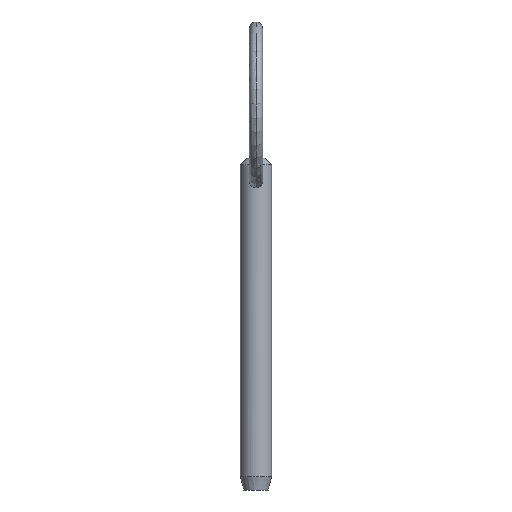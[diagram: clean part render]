
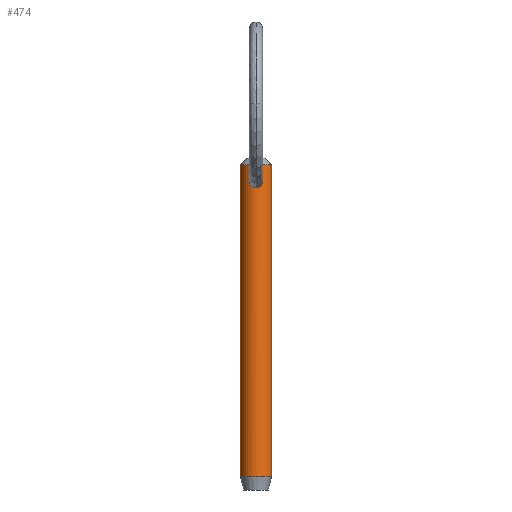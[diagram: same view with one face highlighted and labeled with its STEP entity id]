
A CAD part, front view. The second image highlights one B-rep face of the part: STEP entity #474.
In plain terms, the highlighted cylindrical face has radius 2.38 mm (diameter 4.76 mm), a partial arc.
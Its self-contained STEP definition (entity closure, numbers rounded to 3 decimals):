
#3 = CIRCLE ( 'NONE', #135, 2.38 ) ;
#4 = CARTESIAN_POINT ( 'NONE',  ( -0.133, -2.38, 40.825 ) ) ;
#6 = CARTESIAN_POINT ( 'NONE',  ( -0.991, -2.164, 42.101 ) ) ;
#8 = CARTESIAN_POINT ( 'NONE',  ( -0.88, -2.219, 42.36 ) ) ;
#15 = DIRECTION ( 'NONE',  ( 0., 0., -1. ) ) ;
#16 = CARTESIAN_POINT ( 'NONE',  ( 0.981, -2.169, 41.564 ) ) ;
#20 = CARTESIAN_POINT ( 'NONE',  ( 0.811, -2.24, 41.206 ) ) ;
#24 = EDGE_LOOP ( 'NONE', ( #50, #169 ) ) ;
#37 = CARTESIAN_POINT ( 'NONE',  ( -0.613, -2.302, 42.646 ) ) ;
#41 = AXIS2_PLACEMENT_3D ( 'NONE', #295, #375, #144 ) ;
#50 = ORIENTED_EDGE ( 'NONE', *, *, #307, .T. ) ;
#56 = CARTESIAN_POINT ( 'NONE',  ( 0.625, -2.299, 41.021 ) ) ;
#75 = CARTESIAN_POINT ( 'NONE',  ( -0.505, -2.329, 42.726 ) ) ;
#77 = ORIENTED_EDGE ( 'NONE', *, *, #366, .F. ) ;
#82 = CARTESIAN_POINT ( 'NONE',  ( -2.38, 0., 44.34 ) ) ;
#88 = ORIENTED_EDGE ( 'NONE', *, *, #440, .T. ) ;
#90 = CARTESIAN_POINT ( 'NONE',  ( 0.996, -2.162, 41.964 ) ) ;
#93 = CARTESIAN_POINT ( 'NONE',  ( 0.268, -2.368, 42.837 ) ) ;
#96 = VECTOR ( 'NONE', #123, 1000. ) ;
#99 = CARTESIAN_POINT ( 'NONE',  ( 0.885, -2.21, 41.317 ) ) ;
#103 = VECTOR ( 'NONE', #121, 1000. ) ;
#107 = CARTESIAN_POINT ( 'NONE',  ( 2.38, 0., 44.34 ) ) ;
#114 = EDGE_CURVE ( 'NONE', #473, #439, #430, .T. ) ;
#121 = DIRECTION ( 'NONE',  ( 0., 0., -1. ) ) ;
#123 = DIRECTION ( 'NONE',  ( 0., 0., -1. ) ) ;
#126 = CARTESIAN_POINT ( 'NONE',  ( 1.003, -2.158, 41.699 ) ) ;
#134 = VERTEX_POINT ( 'NONE', #107 ) ;
#135 = AXIS2_PLACEMENT_3D ( 'NONE', #402, #178, #290 ) ;
#137 = VERTEX_POINT ( 'NONE', #369 ) ;
#141 = CARTESIAN_POINT ( 'NONE',  ( -0.811, -2.24, 41.206 ) ) ;
#144 = DIRECTION ( 'NONE',  ( -1., 0., 0. ) ) ;
#145 = CARTESIAN_POINT ( 'NONE',  ( 0., -2.38, 40.825 ) ) ;
#147 = CARTESIAN_POINT ( 'NONE',  ( -1.004, -2.158, 41.699 ) ) ;
#156 = CARTESIAN_POINT ( 'NONE',  ( 0., 0., 44.34 ) ) ;
#163 = B_SPLINE_CURVE_WITH_KNOTS ( 'NONE', 3,
 ( #431, #203, #93, #347, #349, #351, #237, #470, #90, #126, #16, #99, #20, #56, #353, #199, #355, #435 ),
 .UNSPECIFIED., .F., .F.,
 ( 4, 2, 2, 2, 2, 2, 2, 2, 4 ),
 ( 0.003, 0.003, 0.003, 0.004, 0.004, 0.005, 0.005, 0.005, 0.006 ),
 .UNSPECIFIED. ) ;
#169 = ORIENTED_EDGE ( 'NONE', *, *, #114, .T. ) ;
#178 = DIRECTION ( 'NONE',  ( 0., 0., 1. ) ) ;
#182 = CARTESIAN_POINT ( 'NONE',  ( -0.268, -2.368, 40.851 ) ) ;
#187 = VERTEX_POINT ( 'NONE', #188 ) ;
#188 = CARTESIAN_POINT ( 'NONE',  ( -2.38, 0., -3.08 ) ) ;
#199 = CARTESIAN_POINT ( 'NONE',  ( 0.268, -2.368, 40.851 ) ) ;
#203 = CARTESIAN_POINT ( 'NONE',  ( 0.134, -2.38, 42.868 ) ) ;
#207 = VERTEX_POINT ( 'NONE', #82 ) ;
#214 = EDGE_CURVE ( 'NONE', #134, #207, #305, .T. ) ;
#218 = CARTESIAN_POINT ( 'NONE',  ( 0., -2.38, 40.825 ) ) ;
#219 = CARTESIAN_POINT ( 'NONE',  ( -0.626, -2.298, 41.022 ) ) ;
#233 = EDGE_LOOP ( 'NONE', ( #77, #437, #265, #88 ) ) ;
#237 = CARTESIAN_POINT ( 'NONE',  ( 0.865, -2.218, 42.34 ) ) ;
#244 = CARTESIAN_POINT ( 'NONE',  ( 0., -2.38, 42.868 ) ) ;
#245 = FACE_BOUND ( 'NONE', #24, .T. ) ;
#251 = CARTESIAN_POINT ( 'NONE',  ( -0.514, -2.327, 40.949 ) ) ;
#265 = ORIENTED_EDGE ( 'NONE', *, *, #339, .T. ) ;
#278 = CARTESIAN_POINT ( 'NONE',  ( -2.38, 0., 40.6 ) ) ;
#290 = DIRECTION ( 'NONE',  ( -1., 0., 0. ) ) ;
#294 = AXIS2_PLACEMENT_3D ( 'NONE', #156, #15, #418 ) ;
#295 = CARTESIAN_POINT ( 'NONE',  ( 0., 0., 40.6 ) ) ;
#305 = CIRCLE ( 'NONE', #294, 2.38 ) ;
#307 = EDGE_CURVE ( 'NONE', #439, #473, #163, .T. ) ;
#312 = CARTESIAN_POINT ( 'NONE',  ( 2.38, 0., 40.6 ) ) ;
#327 = CARTESIAN_POINT ( 'NONE',  ( 0., -2.38, 42.868 ) ) ;
#332 = CARTESIAN_POINT ( 'NONE',  ( -0.267, -2.368, 42.837 ) ) ;
#339 = EDGE_CURVE ( 'NONE', #207, #187, #421, .T. ) ;
#347 = CARTESIAN_POINT ( 'NONE',  ( 0.508, -2.328, 42.724 ) ) ;
#349 = CARTESIAN_POINT ( 'NONE',  ( 0.615, -2.301, 42.644 ) ) ;
#351 = CARTESIAN_POINT ( 'NONE',  ( 0.793, -2.246, 42.452 ) ) ;
#353 = CARTESIAN_POINT ( 'NONE',  ( 0.513, -2.327, 40.948 ) ) ;
#355 = CARTESIAN_POINT ( 'NONE',  ( 0.133, -2.38, 40.825 ) ) ;
#366 = EDGE_CURVE ( 'NONE', #134, #137, #457, .T. ) ;
#369 = CARTESIAN_POINT ( 'NONE',  ( 2.38, 0., -3.08 ) ) ;
#375 = DIRECTION ( 'NONE',  ( 0., 0., -1. ) ) ;
#377 = CARTESIAN_POINT ( 'NONE',  ( -0.134, -2.38, 42.868 ) ) ;
#402 = CARTESIAN_POINT ( 'NONE',  ( 0., 0., -3.08 ) ) ;
#403 = CYLINDRICAL_SURFACE ( 'NONE', #41, 2.38 ) ;
#414 = CARTESIAN_POINT ( 'NONE',  ( -0.885, -2.21, 41.317 ) ) ;
#418 = DIRECTION ( 'NONE',  ( 1., 0., 0. ) ) ;
#421 = LINE ( 'NONE', #278, #103 ) ;
#430 = B_SPLINE_CURVE_WITH_KNOTS ( 'NONE', 3,
 ( #145, #4, #182, #251, #219, #141, #414, #449, #147, #6, #8, #37, #75, #332, #377, #327 ),
 .UNSPECIFIED., .F., .F.,
 ( 4, 2, 2, 2, 2, 2, 2, 4 ),
 ( 0.006, 0.006, 0.007, 0.007, 0.007, 0.008, 0.009, 0.009 ),
 .UNSPECIFIED. ) ;
#431 = CARTESIAN_POINT ( 'NONE',  ( 0., -2.38, 42.868 ) ) ;
#435 = CARTESIAN_POINT ( 'NONE',  ( 0., -2.38, 40.825 ) ) ;
#436 = FACE_OUTER_BOUND ( 'NONE', #233, .T. ) ;
#437 = ORIENTED_EDGE ( 'NONE', *, *, #214, .T. ) ;
#439 = VERTEX_POINT ( 'NONE', #244 ) ;
#440 = EDGE_CURVE ( 'NONE', #187, #137, #3, .T. ) ;
#449 = CARTESIAN_POINT ( 'NONE',  ( -0.982, -2.169, 41.565 ) ) ;
#457 = LINE ( 'NONE', #312, #96 ) ;
#470 = CARTESIAN_POINT ( 'NONE',  ( 0.966, -2.176, 42.097 ) ) ;
#473 = VERTEX_POINT ( 'NONE', #218 ) ;
#474 = ADVANCED_FACE ( 'NONE', ( #436, #245 ), #403, .T. ) ;
